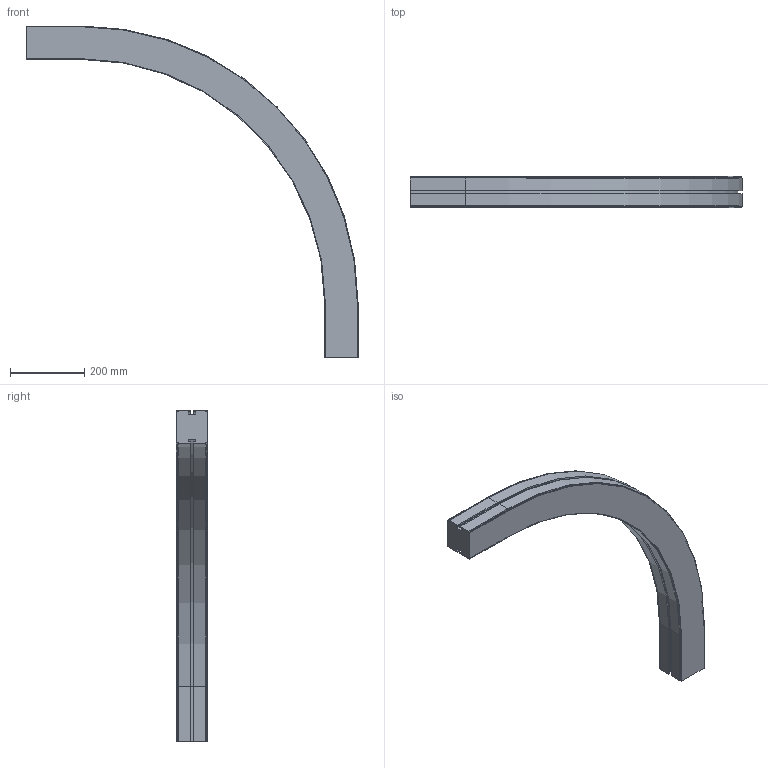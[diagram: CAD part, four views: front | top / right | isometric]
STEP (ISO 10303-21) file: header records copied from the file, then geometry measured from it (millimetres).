
FILE_DESCRIPTION (( 'STEP AP214' ), '1' );
FILE_NAME ('927756 CS090SL Horizontale bochtsectie R700 90°.STEP', '2014-03-20T14:56:14', ( 'Beheerder' ), ( '' ), 'SwSTEP 2.0', 'SolidWorks 2012', '' );
FILE_SCHEMA (( 'AUTOMOTIVE_DESIGN' ));
Length unit declared in the file: millimetre
Products named in the file (1): 927756 CS090SL Horizontale bochtsectie R700 90°
Bounding box: 895 x 84 x 895 mm (x, y, z)
Volume: 10013315.6 mm3; surface area: 649652.1 mm2
Topology: 1 solids, 1 shells, 98 faces, 272 edges, 176 vertices
Faces by surface type: plane 72, cylinder 18, cone 8
Entity records: 3126 total; most frequent: CARTESIAN_POINT 547, ORIENTED_EDGE 544, DIRECTION 514, EDGE_CURVE 272, LINE 228, VECTOR 228, VERTEX_POINT 176, AXIS2_PLACEMENT_3D 143
